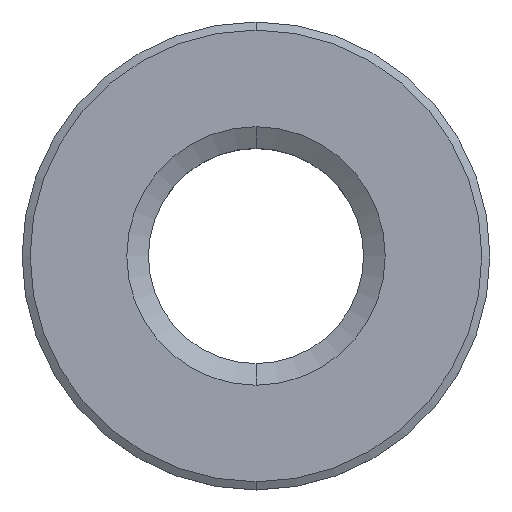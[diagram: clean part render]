
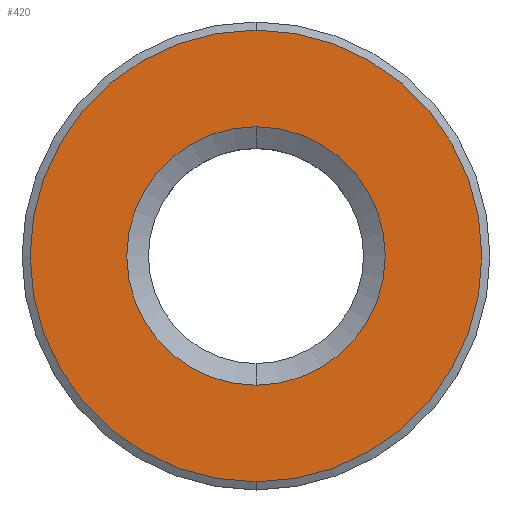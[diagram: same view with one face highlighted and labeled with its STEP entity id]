
A CAD part, top view. The second image highlights one B-rep face of the part: STEP entity #420.
In plain terms, the highlighted planar face has unit normal (0, 0, 1).
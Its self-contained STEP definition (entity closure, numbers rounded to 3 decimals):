
#1=CARTESIAN_POINT('',(0.,0.,2.));
#2=DIRECTION('',(0.,0.,-1.));
#3=DIRECTION('',(0.,1.,0.));
#4=AXIS2_PLACEMENT_3D('',#1,#2,#3);
#14=CARTESIAN_POINT('',(0.,0.,2.));
#15=DIRECTION('',(0.,0.,1.));
#16=DIRECTION('',(0.,1.,0.));
#17=AXIS2_PLACEMENT_3D('',#14,#15,#16);
#139=CARTESIAN_POINT('',(0.,0.,2.));
#140=DIRECTION('',(0.,0.,1.));
#141=DIRECTION('',(0.,1.,0.));
#142=AXIS2_PLACEMENT_3D('',#139,#140,#141);
#144=CARTESIAN_POINT('',(0.,0.,2.));
#145=DIRECTION('',(0.,0.,-1.));
#146=DIRECTION('',(0.,1.,0.));
#147=AXIS2_PLACEMENT_3D('',#144,#145,#146);
#165=CARTESIAN_POINT('',(0.,14.48,2.));
#166=VERTEX_POINT('',#165);
#183=CARTESIAN_POINT('',(0.,-14.48,2.));
#184=VERTEX_POINT('',#183);
#185=CARTESIAN_POINT('',(0.,8.286,2.));
#186=VERTEX_POINT('',#185);
#187=CARTESIAN_POINT('',(0.,-8.286,2.));
#188=VERTEX_POINT('',#187);
#407=CARTESIAN_POINT('',(0.,0.,2.));
#408=DIRECTION('',(0.,0.,-1.));
#409=DIRECTION('',(0.,-1.,0.));
#410=AXIS2_PLACEMENT_3D('',#407,#408,#409);
#411=PLANE('',#410);
#412=ORIENTED_EDGE('',*,*,#386,.F.);
#413=ORIENTED_EDGE('',*,*,#402,.T.);
#414=EDGE_LOOP('',(#412,#413));
#415=FACE_OUTER_BOUND('',#414,.F.);
#416=ORIENTED_EDGE('',*,*,#196,.F.);
#417=ORIENTED_EDGE('',*,*,#214,.T.);
#418=EDGE_LOOP('',(#416,#417));
#419=FACE_BOUND('',#418,.F.);
#420=ADVANCED_FACE('',(#415,#419),#411,.F.);
#5=CIRCLE('',#4,8.286);
#18=CIRCLE('',#17,8.286);
#143=CIRCLE('',#142,14.48);
#148=CIRCLE('',#147,14.48);
#196=EDGE_CURVE('',#186,#188,#5,.T.);
#214=EDGE_CURVE('',#186,#188,#18,.T.);
#386=EDGE_CURVE('',#166,#184,#143,.T.);
#402=EDGE_CURVE('',#166,#184,#148,.T.);
